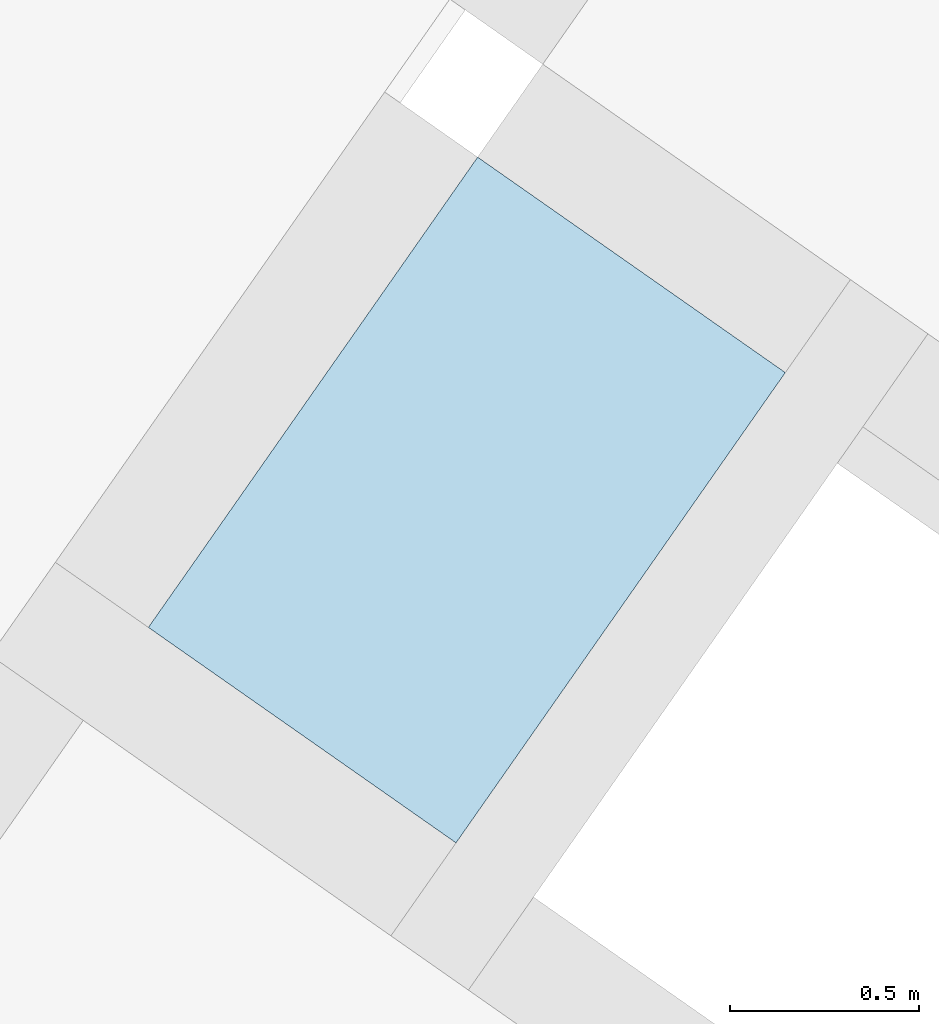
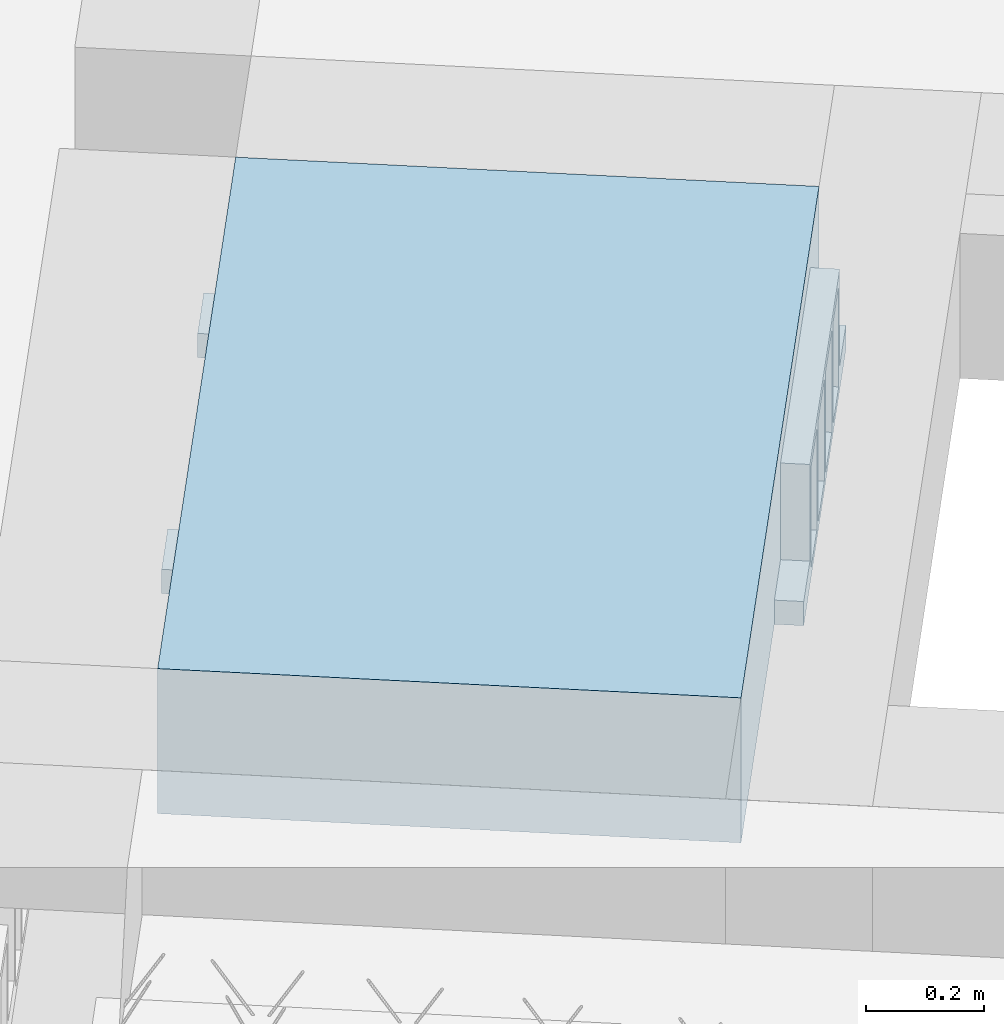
# One storey, part 31 of 46: 1 slab.
"""IFC2X3 building model written with IfcOpenShell, lengths in metres."""

import ifcopenshell
import ifcopenshell.guid

model = None  # the IFC model being written
_history = None  # IfcOwnerHistory: only IFC2X3 demands one
_inside = {}  # id of a spatial element -> (the spatial element, [elements in it])
_under = {}  # id of a project, library or spatial element -> (it, [spatial elements below it])
_declared = {}  # id of a project -> (the project, [libraries it declares])
_typed = {}  # id of a type object -> (the type object, [elements of that type])
_made_of = {}  # id of a material, layer set ... -> (it, [elements and type objects made of it])


def new_model(schema):
    """Start an empty IFC model of exactly this schema.

    Asked for "IFC4X3", IfcOpenShell would pick the latest addendum, in which some entities
    have other attributes; the version numbers below select the first issue.
    IFC2X3 requires an IfcOwnerHistory on every rooted entity: one is made here for all.
    """
    global model, _history
    if schema == "IFC4X3":
        model = ifcopenshell.file(schema_version=(4, 3, 0, 0))
    else:
        model = ifcopenshell.file(schema=schema)
    _inside.clear()
    _under.clear()
    _declared.clear()
    _typed.clear()
    _made_of.clear()
    _history = None
    if model.schema == "IFC2X3":
        org = make("IfcOrganization", Name="unknown")
        user = make(
            "IfcPersonAndOrganization",
            ThePerson=make("IfcPerson", FamilyName="unknown"),
            TheOrganization=org,
        )
        app = make(
            "IfcApplication",
            ApplicationDeveloper=org,
            Version="unknown",
            ApplicationFullName="unknown",
            ApplicationIdentifier="unknown",
        )
        _history = make(
            "IfcOwnerHistory",
            OwningUser=user,
            OwningApplication=app,
            ChangeAction="ADDED",
            CreationDate=0,
        )
    return model


def make(cls, **values):
    """One entity of the class cls with the attributes given. An attribute that is None is left unset."""
    return model.create_entity(
        cls, **{name: value for name, value in values.items() if value is not None}
    )


def entity(cls, *values):
    """Any entity or typed value of the class cls, its attributes in the order of the schema. None: left unset."""
    e = model.create_entity(cls)
    for i, value in enumerate(values):
        if value is not None:
            e[i] = value
    return e


def rooted(cls, **values):
    """An entity with a GlobalId (a new one), such as an element, a storey or a relation."""
    return make(cls, GlobalId=ifcopenshell.guid.new(), OwnerHistory=_history, **values)


def si_unit(unit_type, name, prefix=None):
    """IfcSIUnit, for example si_unit("LENGTHUNIT", "METRE", prefix="MILLI")."""
    return make("IfcSIUnit", UnitType=unit_type, Prefix=prefix, Name=name)


def converted_unit(unit_type, name, factor, base, dimensions=None, offset=None):
    """IfcConversionBasedUnit, such as the inch: factor (a typed value) times the base unit."""
    return make(
        "IfcConversionBasedUnit"
        if offset is None
        else "IfcConversionBasedUnitWithOffset",
        ConversionOffset=offset,
        Dimensions=None
        if dimensions is None
        else entity("IfcDimensionalExponents", *dimensions),
        UnitType=unit_type,
        Name=name,
        ConversionFactor=make(
            "IfcMeasureWithUnit", ValueComponent=factor, UnitComponent=base
        ),
    )


def derived_unit(unit_type, elements):
    """IfcDerivedUnit: a product of units, each with its exponent."""
    return make(
        "IfcDerivedUnit",
        Elements=[
            make("IfcDerivedUnitElement", Unit=unit, Exponent=power)
            for unit, power in elements
        ],
        UnitType=unit_type,
    )


def assignment(units):
    """IfcUnitAssignment: the units of a project."""
    return None if units is None else make("IfcUnitAssignment", Units=units)


def point(xyz):
    """IfcCartesianPoint."""
    return None if xyz is None else make("IfcCartesianPoint", Coordinates=xyz)


def direction(xyz):
    """IfcDirection."""
    return None if xyz is None else make("IfcDirection", DirectionRatios=xyz)


def frame(location, z_axis=None, x_axis=None):
    """IfcAxis2Placement3D, a coordinate frame: its origin and axes. An axis left out is left unset."""
    return make(
        "IfcAxis2Placement3D",
        Location=point(location),
        Axis=direction(z_axis),
        RefDirection=direction(x_axis),
    )


def frame_2d(location, x_axis=None):
    """IfcAxis2Placement2D, a coordinate frame in the plane: its origin and x axis."""
    return make(
        "IfcAxis2Placement2D", Location=point(location), RefDirection=direction(x_axis)
    )


def origin():
    """The frame at (0, 0, 0) with its axes left unset."""
    return frame((0.0, 0.0, 0.0))


def origin_2d_with_axis():
    """The frame at (0, 0) in the plane with the x axis (1, 0) written out."""
    return frame_2d((0.0, 0.0), x_axis=(1.0, 0.0))


def place(relative_to, where):
    """IfcLocalPlacement: puts the frame where relative to a parent placement (None: the world)."""
    return make(
        "IfcLocalPlacement", PlacementRelTo=relative_to, RelativePlacement=where
    )


def context(
    kind, dimensions, precision=None, world=None, true_north=None, identifier=None
):
    """IfcGeometricRepresentationContext, for example the 3D "Model" context."""
    return make(
        "IfcGeometricRepresentationContext",
        ContextIdentifier=identifier,
        ContextType=kind,
        CoordinateSpaceDimension=dimensions,
        Precision=precision,
        WorldCoordinateSystem=world,
        TrueNorth=true_north,
    )


def subcontext(parent, identifier, kind, view, scale=None):
    """IfcGeometricRepresentationSubContext, for example "Body" below "Model"."""
    return make(
        "IfcGeometricRepresentationSubContext",
        ContextIdentifier=identifier,
        ContextType=kind,
        ParentContext=parent,
        TargetScale=scale,
        TargetView=view,
    )


def project(units=None, contexts=None):
    """IfcProject with its units and contexts."""
    return rooted(
        "IfcProject",
        Name="project",
        RepresentationContexts=contexts,
        UnitsInContext=assignment(units),
    )


def spatial(cls, under=None, at=None, **own):
    """A site, building, storey or space (cls), placed at a placement, below another one or the project."""
    s = rooted(cls, ObjectPlacement=at, **own)
    if under is not None:
        _under.setdefault(under.id(), (under, []))[1].append(s)
    return s


def polyline(points):
    """IfcPolyline through the points."""
    return make("IfcPolyline", Points=[point(p) for p in points])


def profile(cls, at=None, kind="AREA", **sizes):
    """A parametric profile (cls). Its sizes go by their IFC names, for example OverallWidth=200.0."""
    return make(cls, ProfileType=kind, Position=at, **sizes)


def rectangle(**sizes):
    """IfcRectangleProfileDef."""
    return profile("IfcRectangleProfileDef", **sizes)


def circle(**sizes):
    """IfcCircleProfileDef."""
    return profile("IfcCircleProfileDef", **sizes)


def outline(outer, holes=None, kind="AREA"):
    """IfcArbitraryClosedProfileDef: a profile drawn as a closed curve; with holes, ...WithVoids."""
    if holes is None:
        return make("IfcArbitraryClosedProfileDef", ProfileType=kind, OuterCurve=outer)
    return make(
        "IfcArbitraryProfileDefWithVoids",
        ProfileType=kind,
        OuterCurve=outer,
        InnerCurves=holes,
    )


def extrude(swept, where, along, depth):
    """IfcExtrudedAreaSolid: the profile swept, set in the frame where, extruded along a direction by depth."""
    return make(
        "IfcExtrudedAreaSolid",
        SweptArea=swept,
        Position=where,
        ExtrudedDirection=direction(along),
        Depth=depth,
    )


def shape(context_of_items, identifier, shape_type, items):
    """IfcShapeRepresentation: the items that make up one representation, for example the "Body"."""
    return make(
        "IfcShapeRepresentation",
        ContextOfItems=context_of_items,
        RepresentationIdentifier=identifier,
        RepresentationType=shape_type,
        Items=items,
    )


def made_of(thing, what):
    """Note that an element or type object is made of a material, layer set ...; save() writes the relation."""
    if what is not None:
        _made_of.setdefault(what.id(), (what, []))[1].append(thing)
    return thing


def type_object(cls, material=None, **own):
    """A type object (cls), such as IfcWallType, which elements share."""
    return made_of(rooted(cls, **own), material)


def element(
    cls,
    number,
    at=None,
    inside=None,
    cuts=None,
    type_object=None,
    material=None,
    context=None,
    identifier="Body",
    shape_type=None,
    held_by="IfcProductDefinitionShape",
    body=None,
    shapes=None,
    **own,
):
    """One element of the class cls, such as IfcWall. Its Tag is "e" and its number.

    at: its placement. inside: the storey or other place that contains it. cuts: it is an
    opening in that element (IfcRelVoidsElement). A single representation is given by context,
    identifier, shape_type and body (its items); several are given by shapes. held_by: the class
    of the entity that holds the representations. save() writes the other relations.
    """
    e = rooted(cls, Tag="e%d" % number, ObjectPlacement=at, **own)
    if body is not None:
        shapes = [shape(context, identifier, shape_type, body)]
    if shapes is not None:
        e.Representation = make(held_by, Representations=shapes)
    if inside is not None:
        _inside.setdefault(inside.id(), (inside, []))[1].append(e)
    if cuts is not None:
        rooted(
            "IfcRelVoidsElement", RelatingBuildingElement=cuts, RelatedOpeningElement=e
        )
    if type_object is not None:
        _typed.setdefault(type_object.id(), (type_object, []))[1].append(e)
    return made_of(e, material)


def aggregate(whole, parts):
    """IfcRelAggregates: a whole, such as a stair, and the parts it consists of."""
    return rooted("IfcRelAggregates", RelatingObject=whole, RelatedObjects=parts)


def save(model, path):
    """Write the relations noted so far, then the file.

    IfcRelAggregates (storeys below a building ...), IfcRelContainedInSpatialStructure (elements
    in a storey), IfcRelDefinesByType, IfcRelAssociatesMaterial and IfcRelDeclares: one each for
    every whole, place, type object, material and project.
    """
    for whole, parts in _under.values():
        aggregate(whole, parts)
    for where, things in _inside.values():
        rooted(
            "IfcRelContainedInSpatialStructure",
            RelatedElements=things,
            RelatingStructure=where,
        )
    for kind, things in _typed.values():
        rooted("IfcRelDefinesByType", RelatedObjects=things, RelatingType=kind)
    for what, things in _made_of.values():
        rooted("IfcRelAssociatesMaterial", RelatedObjects=things, RelatingMaterial=what)
    for by, libraries in _declared.values():
        rooted("IfcRelDeclares", RelatingContext=by, RelatedDefinitions=libraries)
    model.write(path)


model = new_model("IFC2X3")

# Units and contexts
model_context = context("Model", 3, precision=1e-05, world=origin(), true_north=direction((6.123031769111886e-17, 1.0)))
body_context = subcontext(model_context, "Body", "Model", "MODEL_VIEW")
ifc_project = project(units=[si_unit("LENGTHUNIT", "METRE"), si_unit("AREAUNIT", "SQUARE_METRE"), si_unit("VOLUMEUNIT", "CUBIC_METRE"), converted_unit("PLANEANGLEUNIT", "DEGREE", entity("IfcPlaneAngleMeasure", 0.017453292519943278), si_unit("PLANEANGLEUNIT", "RADIAN"), dimensions=[0, 0, 0, 0, 0, 0, 0]), si_unit("MASSUNIT", "GRAM", prefix="KILO"), derived_unit("MASSDENSITYUNIT", [(si_unit("MASSUNIT", "GRAM", prefix="KILO"), 1), (si_unit("LENGTHUNIT", "METRE"), -3)]), derived_unit("IONCONCENTRATIONUNIT", [(si_unit("MASSUNIT", "GRAM", prefix="KILO"), 1), (si_unit("LENGTHUNIT", "METRE"), -3)]), derived_unit("MOMENTOFINERTIAUNIT", [(si_unit("LENGTHUNIT", "METRE"), 4)]), si_unit("TIMEUNIT", "SECOND"), si_unit("FREQUENCYUNIT", "HERTZ"), si_unit("THERMODYNAMICTEMPERATUREUNIT", "DEGREE_CELSIUS"), derived_unit("THERMALTRANSMITTANCEUNIT", [(si_unit("MASSUNIT", "GRAM", prefix="KILO"), 1), (si_unit("THERMODYNAMICTEMPERATUREUNIT", "KELVIN"), -1), (si_unit("TIMEUNIT", "SECOND"), -3)]), derived_unit("THERMALCONDUCTANCEUNIT", [(si_unit("MASSUNIT", "GRAM", prefix="KILO"), 1), (si_unit("THERMODYNAMICTEMPERATUREUNIT", "KELVIN"), -1), (si_unit("TIMEUNIT", "SECOND"), -3), (si_unit("LENGTHUNIT", "METRE"), 1)]), derived_unit("VOLUMETRICFLOWRATEUNIT", [(si_unit("LENGTHUNIT", "METRE", prefix="DECI"), 3), (si_unit("TIMEUNIT", "SECOND"), -1)]), derived_unit("MASSFLOWRATEUNIT", [(si_unit("MASSUNIT", "GRAM", prefix="KILO"), 1), (si_unit("TIMEUNIT", "SECOND"), -1)]), derived_unit("ROTATIONALFREQUENCYUNIT", [(si_unit("TIMEUNIT", "SECOND"), -1)]), si_unit("ELECTRICCURRENTUNIT", "AMPERE"), si_unit("ELECTRICVOLTAGEUNIT", "VOLT"), si_unit("POWERUNIT", "WATT"), si_unit("FORCEUNIT", "NEWTON", prefix="KILO"), si_unit("ILLUMINANCEUNIT", "LUX"), si_unit("LUMINOUSFLUXUNIT", "LUMEN"), si_unit("LUMINOUSINTENSITYUNIT", "CANDELA"), si_unit("ENERGYUNIT", "JOULE"), derived_unit("USERDEFINED", [(si_unit("MASSUNIT", "GRAM", prefix="KILO"), -1), (si_unit("LENGTHUNIT", "METRE"), -2), (si_unit("TIMEUNIT", "SECOND"), 3), (si_unit("LUMINOUSFLUXUNIT", "LUMEN"), 1)]), derived_unit("USERDEFINED", [(si_unit("MASSUNIT", "GRAM", prefix="KILO"), 1), (si_unit("TIMEUNIT", "SECOND"), -3), (si_unit("LENGTHUNIT", "METRE"), 3), (si_unit("ELECTRICCURRENTUNIT", "AMPERE"), -2)]), derived_unit("SOUNDPOWERUNIT", [(si_unit("MASSUNIT", "GRAM", prefix="KILO"), 1), (si_unit("TIMEUNIT", "SECOND"), -3), (si_unit("LENGTHUNIT", "METRE"), 2)]), derived_unit("SOUNDPRESSUREUNIT", [(si_unit("MASSUNIT", "GRAM", prefix="KILO"), 1), (si_unit("LENGTHUNIT", "METRE"), -1), (si_unit("TIMEUNIT", "SECOND"), -2)]), derived_unit("LINEARVELOCITYUNIT", [(si_unit("LENGTHUNIT", "METRE"), 1), (si_unit("TIMEUNIT", "SECOND"), -1)]), si_unit("PRESSUREUNIT", "PASCAL"), derived_unit("USERDEFINED", [(si_unit("MASSUNIT", "GRAM", prefix="KILO"), 1), (si_unit("LENGTHUNIT", "METRE"), -2), (si_unit("TIMEUNIT", "SECOND"), -2)]), derived_unit("LINEARFORCEUNIT", [(si_unit("MASSUNIT", "GRAM", prefix="KILO"), 1), (si_unit("TIMEUNIT", "SECOND"), -2)]), derived_unit("PLANARFORCEUNIT", [(si_unit("MASSUNIT", "GRAM", prefix="KILO"), 1), (si_unit("LENGTHUNIT", "METRE"), -1), (si_unit("TIMEUNIT", "SECOND"), -2)]), derived_unit("SPECIFICHEATCAPACITYUNIT", [(si_unit("THERMODYNAMICTEMPERATUREUNIT", "KELVIN"), -1), (si_unit("LENGTHUNIT", "METRE"), 2), (si_unit("TIMEUNIT", "SECOND"), -2)]), derived_unit("HEATFLUXDENSITYUNIT", [(si_unit("MASSUNIT", "GRAM", prefix="KILO"), 1), (si_unit("TIMEUNIT", "SECOND"), -3)]), derived_unit("HEATINGVALUEUNIT", [(si_unit("LENGTHUNIT", "METRE"), 2), (si_unit("TIMEUNIT", "SECOND"), -2)]), derived_unit("VAPORPERMEABILITYUNIT", [(si_unit("LENGTHUNIT", "METRE"), -1), (si_unit("TIMEUNIT", "SECOND"), 1)]), derived_unit("DYNAMICVISCOSITYUNIT", [(si_unit("MASSUNIT", "GRAM", prefix="KILO"), 1), (si_unit("TIMEUNIT", "SECOND"), -1), (si_unit("LENGTHUNIT", "METRE"), -1)]), derived_unit("THERMALEXPANSIONCOEFFICIENTUNIT", [(si_unit("THERMODYNAMICTEMPERATUREUNIT", "KELVIN"), -1)]), derived_unit("MODULUSOFELASTICITYUNIT", [(si_unit("MASSUNIT", "GRAM", prefix="KILO"), 1), (si_unit("LENGTHUNIT", "METRE"), -1), (si_unit("TIMEUNIT", "SECOND"), -2)]), derived_unit("ISOTHERMALMOISTURECAPACITYUNIT", [(si_unit("MASSUNIT", "GRAM", prefix="KILO"), -1), (si_unit("LENGTHUNIT", "METRE"), 3)]), derived_unit("MOISTUREDIFFUSIVITYUNIT", [(si_unit("TIMEUNIT", "SECOND"), -1), (si_unit("LENGTHUNIT", "METRE"), 2)]), derived_unit("MASSPERLENGTHUNIT", [(si_unit("MASSUNIT", "GRAM", prefix="KILO"), 1), (si_unit("LENGTHUNIT", "METRE"), -1)]), derived_unit("THERMALRESISTANCEUNIT", [(si_unit("MASSUNIT", "GRAM", prefix="KILO"), -1), (si_unit("TIMEUNIT", "SECOND"), 3), (si_unit("THERMODYNAMICTEMPERATUREUNIT", "KELVIN"), 1)]), derived_unit("ACCELERATIONUNIT", [(si_unit("LENGTHUNIT", "METRE"), 1), (si_unit("TIMEUNIT", "SECOND"), -2)]), derived_unit("ANGULARVELOCITYUNIT", [(si_unit("TIMEUNIT", "SECOND"), -1), (si_unit("PLANEANGLEUNIT", "RADIAN"), 1)]), derived_unit("LINEARSTIFFNESSUNIT", [(si_unit("MASSUNIT", "GRAM", prefix="KILO"), 1), (si_unit("TIMEUNIT", "SECOND"), -2)]), derived_unit("WARPINGCONSTANTUNIT", [(si_unit("LENGTHUNIT", "METRE"), 6)]), derived_unit("LINEARMOMENTUNIT", [(si_unit("MASSUNIT", "GRAM", prefix="KILO"), 1), (si_unit("LENGTHUNIT", "METRE"), 1), (si_unit("TIMEUNIT", "SECOND"), -2)]), derived_unit("TORQUEUNIT", [(si_unit("MASSUNIT", "GRAM", prefix="KILO"), 1), (si_unit("LENGTHUNIT", "METRE"), 2), (si_unit("TIMEUNIT", "SECOND"), -2)])], contexts=[model_context])

# Site, building, storey
site_placement = place(None, origin())
site = spatial("IfcSite", under=ifc_project, at=site_placement, Name="Default", CompositionType="ELEMENT")
building_placement = place(site_placement, origin())
building = spatial("IfcBuilding", under=site, at=building_placement, CompositionType="ELEMENT")
storey_placement = place(building_placement, frame((0.0, 0.0, 99.52000000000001)))
storey = spatial("IfcBuildingStorey", under=building, at=storey_placement, Name="F1", CompositionType="ELEMENT", Elevation=99.52000000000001)

# Slab
slab_type = type_object("IfcSlabType", Name="Paño 8 (30 cm)", PredefinedType="FLOOR")
slab_placement = place(storey_placement, origin())
element("IfcSlab", 1, at=slab_placement, inside=storey, type_object=slab_type, Name="Paño 8 (30 cm)", ObjectType="Covicsa Armada(25+5)", PredefinedType="FLOOR", context=body_context, shape_type="SweptSolid", body=[
    extrude(rectangle(XDim=1.0927344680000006, YDim=0.11999999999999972, at=origin_2d_with_axis()), frame((5.809233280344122, 6.370298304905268, -0.3000000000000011), z_axis=(0.0, 0.0, 1.0), x_axis=(0.8191520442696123, -0.5735764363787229, 0.0)), (0.0, 0.0, 1.0), 0.04999999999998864),
    extrude(rectangle(XDim=1.0927344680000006, YDim=0.11999999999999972, at=origin_2d_with_axis()), frame((6.210736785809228, 6.943704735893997, -0.3000000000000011), z_axis=(0.0, 0.0, 1.0), x_axis=(0.8191520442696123, -0.5735764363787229, 0.0)), (0.0, 0.0, 1.0), 0.04999999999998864),
    extrude(rectangle(XDim=1.517468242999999, YDim=0.9927344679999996, at=frame_2d((-1.1657341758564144e-15, -1.6653345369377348e-16), x_axis=(1.0, 0.0))), frame((5.83804620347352, 6.411447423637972, -0.3000000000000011), z_axis=(0.0, 0.0, 1.0), x_axis=(0.5735764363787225, 0.8191520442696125, 0.0)), (0.0, 0.0, 1.0), 0.3000000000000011),
    extrude(circle(Radius=0.0025, at=origin_2d_with_axis()), frame((5.360686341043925, 6.640426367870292, -0.2750000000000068), z_axis=(0.8191520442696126, -0.5735764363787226, 0.0), x_axis=(-0.5735764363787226, -0.8191520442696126, 0.0)), (0.0, 0.0, 1.0), 1.044734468),
    extrude(circle(Radius=0.0025, at=origin_2d_with_axis()), frame((6.157372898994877, 6.126528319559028, -0.050000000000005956), z_axis=(-0.8191520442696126, 0.5735764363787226, 0.0), x_axis=(-0.5735764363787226, -0.8191520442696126, 0.0)), (0.0, 0.0, 1.0), 0.8499999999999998),
    extrude(circle(Radius=0.0025, at=origin_2d_with_axis()), frame((6.198160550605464, 6.054020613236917, -0.2750000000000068), z_axis=(-0.3145304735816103, 0.389334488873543, 0.8657304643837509), x_axis=(-0.7778747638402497, -0.6284193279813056, 0.0)), (0.0, 0.0, 1.0), 0.2598961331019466),
    extrude(circle(Radius=0.0025, at=origin_2d_with_axis()), frame((5.993372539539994, 6.197414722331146, -0.2750000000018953), z_axis=(0.47343050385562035, -0.1624017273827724, 0.8657304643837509), x_axis=(-0.3244721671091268, -0.9458952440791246, 0.0)), (0.0, 0.0, 1.0), 0.25989613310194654),
    extrude(circle(Radius=0.0025, at=origin_2d_with_axis()), frame((5.993372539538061, 6.1974147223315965, -0.2750000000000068), z_axis=(-0.3145304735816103, 0.389334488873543, 0.8657304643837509), x_axis=(-0.7778747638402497, -0.6284193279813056, 0.0)), (0.0, 0.0, 1.0), 0.2598961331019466),
    extrude(circle(Radius=0.0025, at=origin_2d_with_axis()), frame((5.788584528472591, 6.340808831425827, -0.2750000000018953), z_axis=(0.47343050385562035, -0.1624017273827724, 0.8657304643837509), x_axis=(-0.3244721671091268, -0.9458952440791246, 0.0)), (0.0, 0.0, 1.0), 0.25989613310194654),
    extrude(circle(Radius=0.0025, at=origin_2d_with_axis()), frame((5.788584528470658, 6.340808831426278, -0.2750000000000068), z_axis=(-0.3145304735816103, 0.389334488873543, 0.8657304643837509), x_axis=(-0.7778747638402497, -0.6284193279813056, 0.0)), (0.0, 0.0, 1.0), 0.2598961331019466),
    extrude(circle(Radius=0.0025, at=origin_2d_with_axis()), frame((5.583796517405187, 6.484202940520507, -0.2750000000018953), z_axis=(0.47343050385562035, -0.1624017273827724, 0.8657304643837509), x_axis=(-0.3244721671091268, -0.9458952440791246, 0.0)), (0.0, 0.0, 1.0), 0.25989613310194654),
    extrude(circle(Radius=0.0025, at=origin_2d_with_axis()), frame((5.583796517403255, 6.484202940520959, -0.2750000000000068), z_axis=(-0.3145304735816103, 0.389334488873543, 0.8657304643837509), x_axis=(-0.7778747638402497, -0.6284193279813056, 0.0)), (0.0, 0.0, 1.0), 0.2598961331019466),
    extrude(circle(Radius=0.0025, at=origin_2d_with_axis()), frame((5.379008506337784, 6.627597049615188, -0.2750000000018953), z_axis=(0.47343050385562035, -0.1624017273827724, 0.8657304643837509), x_axis=(-0.3244721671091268, -0.9458952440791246, 0.0)), (0.0, 0.0, 1.0), 0.25989613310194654),
    extrude(circle(Radius=0.0025, at=origin_2d_with_axis()), frame((5.401983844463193, 6.699405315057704, -0.2750000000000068), z_axis=(0.8191520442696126, -0.5735764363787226, 0.0), x_axis=(-0.5735764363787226, -0.8191520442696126, 0.0)), (0.0, 0.0, 1.0), 1.044734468),
    extrude(circle(Radius=0.0025, at=origin_2d_with_axis()), frame((6.239458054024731, 6.112999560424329, -0.2750000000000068), z_axis=(-0.47343050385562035, 0.1624017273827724, 0.8657304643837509), x_axis=(-0.3244721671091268, -0.9458952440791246, 0.0)), (0.0, 0.0, 1.0), 0.25989613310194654),
    extrude(circle(Radius=0.0025, at=origin_2d_with_axis()), frame((6.034670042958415, 6.256393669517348, -0.2750000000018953), z_axis=(0.3145304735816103, -0.389334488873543, 0.8657304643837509), x_axis=(-0.7778747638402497, -0.6284193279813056, 0.0)), (0.0, 0.0, 1.0), 0.2598961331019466),
    extrude(circle(Radius=0.0025, at=origin_2d_with_axis()), frame((6.034670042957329, 6.256393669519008, -0.2750000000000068), z_axis=(-0.47343050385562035, 0.1624017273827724, 0.8657304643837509), x_axis=(-0.3244721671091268, -0.9458952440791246, 0.0)), (0.0, 0.0, 1.0), 0.25989613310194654),
    extrude(circle(Radius=0.0025, at=origin_2d_with_axis()), frame((5.829882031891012, 6.399787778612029, -0.2750000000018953), z_axis=(0.3145304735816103, -0.389334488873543, 0.8657304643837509), x_axis=(-0.7778747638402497, -0.6284193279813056, 0.0)), (0.0, 0.0, 1.0), 0.2598961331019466),
    extrude(circle(Radius=0.0025, at=origin_2d_with_axis()), frame((5.829882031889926, 6.39978777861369, -0.2750000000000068), z_axis=(-0.47343050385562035, 0.1624017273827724, 0.8657304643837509), x_axis=(-0.3244721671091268, -0.9458952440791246, 0.0)), (0.0, 0.0, 1.0), 0.25989613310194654),
    extrude(circle(Radius=0.0025, at=origin_2d_with_axis()), frame((5.6250940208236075, 6.543181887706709, -0.2750000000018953), z_axis=(0.3145304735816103, -0.389334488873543, 0.8657304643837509), x_axis=(-0.7778747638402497, -0.6284193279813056, 0.0)), (0.0, 0.0, 1.0), 0.2598961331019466),
    extrude(circle(Radius=0.0025, at=origin_2d_with_axis()), frame((5.625094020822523, 6.5431818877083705, -0.2750000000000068), z_axis=(-0.47343050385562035, 0.1624017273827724, 0.8657304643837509), x_axis=(-0.3244721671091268, -0.9458952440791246, 0.0)), (0.0, 0.0, 1.0), 0.25989613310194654),
    extrude(circle(Radius=0.0025, at=origin_2d_with_axis()), frame((5.420306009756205, 6.68657599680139, -0.2750000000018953), z_axis=(0.3145304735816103, -0.389334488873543, 0.8657304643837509), x_axis=(-0.7778747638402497, -0.6284193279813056, 0.0)), (0.0, 0.0, 1.0), 0.2598961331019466),
    extrude(circle(Radius=0.0025, at=origin_2d_with_axis()), frame((5.762189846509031, 7.213832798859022, -0.2750000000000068), z_axis=(0.8191520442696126, -0.5735764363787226, 0.0), x_axis=(-0.5735764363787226, -0.8191520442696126, 0.0)), (0.0, 0.0, 1.0), 1.044734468),
    extrude(circle(Radius=0.0025, at=origin_2d_with_axis()), frame((6.558876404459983, 6.699934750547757, -0.050000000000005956), z_axis=(-0.8191520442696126, 0.5735764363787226, 0.0), x_axis=(-0.5735764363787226, -0.8191520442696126, 0.0)), (0.0, 0.0, 1.0), 0.8499999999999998),
    extrude(circle(Radius=0.0025, at=origin_2d_with_axis()), frame((6.59966405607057, 6.627427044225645, -0.2750000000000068), z_axis=(-0.3145304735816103, 0.389334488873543, 0.8657304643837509), x_axis=(-0.7778747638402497, -0.6284193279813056, 0.0)), (0.0, 0.0, 1.0), 0.2598961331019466),
    extrude(circle(Radius=0.0025, at=origin_2d_with_axis()), frame((6.3948760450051, 6.770821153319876, -0.2750000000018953), z_axis=(0.47343050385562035, -0.1624017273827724, 0.8657304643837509), x_axis=(-0.3244721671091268, -0.9458952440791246, 0.0)), (0.0, 0.0, 1.0), 0.25989613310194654),
    extrude(circle(Radius=0.0025, at=origin_2d_with_axis()), frame((6.3948760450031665, 6.770821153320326, -0.2750000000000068), z_axis=(-0.3145304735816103, 0.389334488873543, 0.8657304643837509), x_axis=(-0.7778747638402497, -0.6284193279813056, 0.0)), (0.0, 0.0, 1.0), 0.2598961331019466),
    extrude(circle(Radius=0.0025, at=origin_2d_with_axis()), frame((6.1900880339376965, 6.914215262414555, -0.2750000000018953), z_axis=(0.47343050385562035, -0.1624017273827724, 0.8657304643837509), x_axis=(-0.3244721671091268, -0.9458952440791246, 0.0)), (0.0, 0.0, 1.0), 0.25989613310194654),
    extrude(circle(Radius=0.0025, at=origin_2d_with_axis()), frame((6.190088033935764, 6.9142152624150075, -0.2750000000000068), z_axis=(-0.3145304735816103, 0.389334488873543, 0.8657304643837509), x_axis=(-0.7778747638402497, -0.6284193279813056, 0.0)), (0.0, 0.0, 1.0), 0.2598961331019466),
    extrude(circle(Radius=0.0025, at=origin_2d_with_axis()), frame((5.985300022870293, 7.057609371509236, -0.2750000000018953), z_axis=(0.47343050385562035, -0.1624017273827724, 0.8657304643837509), x_axis=(-0.3244721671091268, -0.9458952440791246, 0.0)), (0.0, 0.0, 1.0), 0.25989613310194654),
    extrude(circle(Radius=0.0025, at=origin_2d_with_axis()), frame((5.985300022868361, 7.057609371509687, -0.2750000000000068), z_axis=(-0.3145304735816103, 0.389334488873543, 0.8657304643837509), x_axis=(-0.7778747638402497, -0.6284193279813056, 0.0)), (0.0, 0.0, 1.0), 0.2598961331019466),
    extrude(circle(Radius=0.0025, at=origin_2d_with_axis()), frame((5.78051201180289, 7.201003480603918, -0.2750000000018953), z_axis=(0.47343050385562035, -0.1624017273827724, 0.8657304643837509), x_axis=(-0.3244721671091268, -0.9458952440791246, 0.0)), (0.0, 0.0, 1.0), 0.25989613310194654),
    extrude(circle(Radius=0.0025, at=origin_2d_with_axis()), frame((5.803487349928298, 7.272811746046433, -0.2750000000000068), z_axis=(0.8191520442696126, -0.5735764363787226, 0.0), x_axis=(-0.5735764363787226, -0.8191520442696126, 0.0)), (0.0, 0.0, 1.0), 1.044734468),
    extrude(circle(Radius=0.0025, at=origin_2d_with_axis()), frame((6.6409615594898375, 6.686405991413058, -0.2750000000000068), z_axis=(-0.47343050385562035, 0.1624017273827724, 0.8657304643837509), x_axis=(-0.3244721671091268, -0.9458952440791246, 0.0)), (0.0, 0.0, 1.0), 0.25989613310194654),
    extrude(circle(Radius=0.0025, at=origin_2d_with_axis()), frame((6.436173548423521, 6.829800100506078, -0.2750000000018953), z_axis=(0.3145304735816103, -0.389334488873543, 0.8657304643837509), x_axis=(-0.7778747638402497, -0.6284193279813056, 0.0)), (0.0, 0.0, 1.0), 0.2598961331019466),
    extrude(circle(Radius=0.0025, at=origin_2d_with_axis()), frame((6.436173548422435, 6.829800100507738, -0.2750000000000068), z_axis=(-0.47343050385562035, 0.1624017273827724, 0.8657304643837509), x_axis=(-0.3244721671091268, -0.9458952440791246, 0.0)), (0.0, 0.0, 1.0), 0.25989613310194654),
    extrude(circle(Radius=0.0025, at=origin_2d_with_axis()), frame((6.231385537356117, 6.973194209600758, -0.2750000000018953), z_axis=(0.3145304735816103, -0.389334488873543, 0.8657304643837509), x_axis=(-0.7778747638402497, -0.6284193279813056, 0.0)), (0.0, 0.0, 1.0), 0.2598961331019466),
    extrude(circle(Radius=0.0025, at=origin_2d_with_axis()), frame((6.231385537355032, 6.973194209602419, -0.2750000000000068), z_axis=(-0.47343050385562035, 0.1624017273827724, 0.8657304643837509), x_axis=(-0.3244721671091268, -0.9458952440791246, 0.0)), (0.0, 0.0, 1.0), 0.25989613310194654),
    extrude(circle(Radius=0.0025, at=origin_2d_with_axis()), frame((6.026597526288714, 7.116588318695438, -0.2750000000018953), z_axis=(0.3145304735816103, -0.389334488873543, 0.8657304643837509), x_axis=(-0.7778747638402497, -0.6284193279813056, 0.0)), (0.0, 0.0, 1.0), 0.2598961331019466),
    extrude(circle(Radius=0.0025, at=origin_2d_with_axis()), frame((6.026597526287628, 7.1165883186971, -0.2750000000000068), z_axis=(-0.47343050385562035, 0.1624017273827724, 0.8657304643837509), x_axis=(-0.3244721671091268, -0.9458952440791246, 0.0)), (0.0, 0.0, 1.0), 0.25989613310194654),
    extrude(circle(Radius=0.0025, at=origin_2d_with_axis()), frame((5.821809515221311, 7.25998242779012, -0.2750000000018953), z_axis=(0.3145304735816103, -0.389334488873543, 0.8657304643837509), x_axis=(-0.7778747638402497, -0.6284193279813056, 0.0)), (0.0, 0.0, 1.0), 0.2598961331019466),
    extrude(outline(polyline([(-0.28999999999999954, -0.12500000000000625), (0.28999999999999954, -0.12500000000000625), (0.28999999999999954, 0.12500000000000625), (-0.28999999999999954, 0.12500000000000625), (-0.28999999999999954, -0.12500000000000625)]), holes=[polyline([(0.26999999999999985, -0.10499999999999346), (0.15500000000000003, -0.10499999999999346), (0.15500000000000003, 0.10499999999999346), (0.26999999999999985, 0.10499999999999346), (0.26999999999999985, 0.042499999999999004), (0.26999999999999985, -0.10499999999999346)]), polyline([(0.009999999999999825, -0.10499999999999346), (0.009999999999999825, 0.10499999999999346), (0.1350000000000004, 0.10499999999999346), (0.1350000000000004, -0.10499999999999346), (0.009999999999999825, -0.10499999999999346)]), polyline([(-0.1350000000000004, 0.10499999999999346), (-0.009999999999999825, 0.10499999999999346), (-0.009999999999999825, -0.10499999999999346), (-0.1350000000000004, -0.10499999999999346), (-0.1350000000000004, 0.10499999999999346)]), polyline([(-0.26999999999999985, -0.10499999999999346), (-0.26999999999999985, 0.042499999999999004), (-0.26999999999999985, 0.10499999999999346), (-0.15500000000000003, 0.10499999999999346), (-0.15500000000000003, -0.10499999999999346), (-0.26999999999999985, -0.10499999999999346)])]), frame((5.855633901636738, 5.911147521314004, -0.17499999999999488), z_axis=(0.8191520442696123, -0.5735764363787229, 0.0), x_axis=(-0.5735764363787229, -0.8191520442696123, 0.0)), (0.0, 0.0, 1.0), 0.19499999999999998),
    extrude(outline(polyline([(-0.28999999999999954, -0.12500000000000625), (0.28999999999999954, -0.12500000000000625), (0.28999999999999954, 0.12500000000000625), (-0.28999999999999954, 0.12500000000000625), (-0.28999999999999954, -0.12500000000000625)]), holes=[polyline([(0.26999999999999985, -0.10499999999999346), (0.15500000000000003, -0.10499999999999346), (0.15500000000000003, 0.10499999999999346), (0.26999999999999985, 0.10499999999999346), (0.26999999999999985, 0.042499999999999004), (0.26999999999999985, -0.10499999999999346)]), polyline([(0.009999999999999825, -0.10499999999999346), (0.009999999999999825, 0.10499999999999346), (0.1350000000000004, 0.10499999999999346), (0.1350000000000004, -0.10499999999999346), (0.009999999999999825, -0.10499999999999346)]), polyline([(-0.1350000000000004, 0.10499999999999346), (-0.009999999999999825, 0.10499999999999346), (-0.009999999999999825, -0.10499999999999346), (-0.1350000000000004, -0.10499999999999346), (-0.1350000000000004, 0.10499999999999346)]), polyline([(-0.26999999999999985, -0.10499999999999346), (-0.26999999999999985, 0.042499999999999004), (-0.26999999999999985, 0.10499999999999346), (-0.15500000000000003, 0.10499999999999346), (-0.15500000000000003, -0.10499999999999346), (-0.26999999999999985, -0.10499999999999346)])]), frame((5.691803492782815, 6.025862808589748, -0.17499999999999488), z_axis=(0.8191520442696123, -0.5735764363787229, 0.0), x_axis=(-0.5735764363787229, -0.8191520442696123, 0.0)), (0.0, 0.0, 1.0), 0.19499999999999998),
    extrude(outline(polyline([(-0.28999999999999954, -0.12500000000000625), (0.28999999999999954, -0.12500000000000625), (0.28999999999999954, 0.12500000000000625), (-0.28999999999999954, 0.12500000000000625), (-0.28999999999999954, -0.12500000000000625)]), holes=[polyline([(0.26999999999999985, -0.10499999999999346), (0.15500000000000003, -0.10499999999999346), (0.15500000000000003, 0.10499999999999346), (0.26999999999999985, 0.10499999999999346), (0.26999999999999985, 0.042499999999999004), (0.26999999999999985, -0.10499999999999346)]), polyline([(0.009999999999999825, -0.10499999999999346), (0.009999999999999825, 0.10499999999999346), (0.1350000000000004, 0.10499999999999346), (0.1350000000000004, -0.10499999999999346), (0.009999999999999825, -0.10499999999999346)]), polyline([(-0.1350000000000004, 0.10499999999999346), (-0.009999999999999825, 0.10499999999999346), (-0.009999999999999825, -0.10499999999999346), (-0.1350000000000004, -0.10499999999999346), (-0.1350000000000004, 0.10499999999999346)]), polyline([(-0.26999999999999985, -0.10499999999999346), (-0.26999999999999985, 0.042499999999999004), (-0.26999999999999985, 0.10499999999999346), (-0.15500000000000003, 0.10499999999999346), (-0.15500000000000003, -0.10499999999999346), (-0.26999999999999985, -0.10499999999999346)])]), frame((5.527973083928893, 6.140578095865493, -0.17499999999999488), z_axis=(0.8191520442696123, -0.5735764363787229, 0.0), x_axis=(-0.5735764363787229, -0.8191520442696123, 0.0)), (0.0, 0.0, 1.0), 0.19499999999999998),
    extrude(outline(polyline([(-0.28999999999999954, -0.12500000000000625), (0.28999999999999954, -0.12500000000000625), (0.28999999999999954, 0.12500000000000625), (-0.28999999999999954, 0.12500000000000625), (-0.28999999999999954, -0.12500000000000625)]), holes=[polyline([(0.26999999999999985, -0.10499999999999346), (0.15500000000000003, -0.10499999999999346), (0.15500000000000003, 0.10499999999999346), (0.26999999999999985, 0.10499999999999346), (0.26999999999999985, 0.042499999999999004), (0.26999999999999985, -0.10499999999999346)]), polyline([(0.009999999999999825, -0.10499999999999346), (0.009999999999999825, 0.10499999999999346), (0.1350000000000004, 0.10499999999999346), (0.1350000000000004, -0.10499999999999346), (0.009999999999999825, -0.10499999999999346)]), polyline([(-0.1350000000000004, 0.10499999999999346), (-0.009999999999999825, 0.10499999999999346), (-0.009999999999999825, -0.10499999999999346), (-0.1350000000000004, -0.10499999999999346), (-0.1350000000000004, 0.10499999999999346)]), polyline([(-0.26999999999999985, -0.10499999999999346), (-0.26999999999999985, 0.042499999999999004), (-0.26999999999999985, 0.10499999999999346), (-0.15500000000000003, 0.10499999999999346), (-0.15500000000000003, -0.10499999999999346), (-0.26999999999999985, -0.10499999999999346)])]), frame((5.3641426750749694, 6.255293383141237, -0.17499999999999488), z_axis=(0.8191520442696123, -0.5735764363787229, 0.0), x_axis=(-0.5735764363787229, -0.8191520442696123, 0.0)), (0.0, 0.0, 1.0), 0.19499999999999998),
    extrude(outline(polyline([(-0.28999999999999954, -0.12500000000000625), (0.28999999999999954, -0.12500000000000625), (0.28999999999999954, 0.12500000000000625), (-0.28999999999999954, 0.12500000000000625), (-0.28999999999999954, -0.12500000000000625)]), holes=[polyline([(0.26999999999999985, -0.10499999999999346), (0.15500000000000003, -0.10499999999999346), (0.15500000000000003, 0.10499999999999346), (0.26999999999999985, 0.10499999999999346), (0.26999999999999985, 0.042499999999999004), (0.26999999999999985, -0.10499999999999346)]), polyline([(0.009999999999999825, -0.10499999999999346), (0.009999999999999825, 0.10499999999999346), (0.1350000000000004, 0.10499999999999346), (0.1350000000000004, -0.10499999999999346), (0.009999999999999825, -0.10499999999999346)]), polyline([(-0.1350000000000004, 0.10499999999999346), (-0.009999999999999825, 0.10499999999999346), (-0.009999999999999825, -0.10499999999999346), (-0.1350000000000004, -0.10499999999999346), (-0.1350000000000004, 0.10499999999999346)]), polyline([(-0.26999999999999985, -0.10499999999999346), (-0.26999999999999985, 0.042499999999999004), (-0.26999999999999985, 0.10499999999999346), (-0.15500000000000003, 0.10499999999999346), (-0.15500000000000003, -0.10499999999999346), (-0.26999999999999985, -0.10499999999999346)])]), frame((6.297808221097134, 6.4554655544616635, -0.17499999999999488), z_axis=(0.8191520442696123, -0.5735764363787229, 0.0), x_axis=(-0.5735764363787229, -0.8191520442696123, 0.0)), (0.0, 0.0, 1.0), 0.19499999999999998),
    extrude(outline(polyline([(-0.28999999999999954, -0.12500000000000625), (0.28999999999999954, -0.12500000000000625), (0.28999999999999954, 0.12500000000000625), (-0.28999999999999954, 0.12500000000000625), (-0.28999999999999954, -0.12500000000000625)]), holes=[polyline([(0.26999999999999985, -0.10499999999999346), (0.15500000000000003, -0.10499999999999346), (0.15500000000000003, 0.10499999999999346), (0.26999999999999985, 0.10499999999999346), (0.26999999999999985, 0.042499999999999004), (0.26999999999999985, -0.10499999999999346)]), polyline([(0.009999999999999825, -0.10499999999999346), (0.009999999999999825, 0.10499999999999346), (0.1350000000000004, 0.10499999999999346), (0.1350000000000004, -0.10499999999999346), (0.009999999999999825, -0.10499999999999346)]), polyline([(-0.1350000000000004, 0.10499999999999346), (-0.009999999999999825, 0.10499999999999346), (-0.009999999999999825, -0.10499999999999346), (-0.1350000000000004, -0.10499999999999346), (-0.1350000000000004, 0.10499999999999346)]), polyline([(-0.26999999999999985, -0.10499999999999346), (-0.26999999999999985, 0.042499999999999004), (-0.26999999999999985, 0.10499999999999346), (-0.15500000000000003, 0.10499999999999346), (-0.15500000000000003, -0.10499999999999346), (-0.26999999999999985, -0.10499999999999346)])]), frame((6.133977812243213, 6.570180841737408, -0.17499999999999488), z_axis=(0.8191520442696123, -0.5735764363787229, 0.0), x_axis=(-0.5735764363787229, -0.8191520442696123, 0.0)), (0.0, 0.0, 1.0), 0.19499999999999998),
    extrude(outline(polyline([(-0.28999999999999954, -0.12500000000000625), (0.28999999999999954, -0.12500000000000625), (0.28999999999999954, 0.12500000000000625), (-0.28999999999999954, 0.12500000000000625), (-0.28999999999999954, -0.12500000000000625)]), holes=[polyline([(0.26999999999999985, -0.10499999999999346), (0.15500000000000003, -0.10499999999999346), (0.15500000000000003, 0.10499999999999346), (0.26999999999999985, 0.10499999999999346), (0.26999999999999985, 0.042499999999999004), (0.26999999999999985, -0.10499999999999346)]), polyline([(0.009999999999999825, -0.10499999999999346), (0.009999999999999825, 0.10499999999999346), (0.1350000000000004, 0.10499999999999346), (0.1350000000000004, -0.10499999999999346), (0.009999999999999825, -0.10499999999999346)]), polyline([(-0.1350000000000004, 0.10499999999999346), (-0.009999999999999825, 0.10499999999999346), (-0.009999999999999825, -0.10499999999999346), (-0.1350000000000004, -0.10499999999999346), (-0.1350000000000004, 0.10499999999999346)]), polyline([(-0.26999999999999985, -0.10499999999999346), (-0.26999999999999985, 0.042499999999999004), (-0.26999999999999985, 0.10499999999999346), (-0.15500000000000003, 0.10499999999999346), (-0.15500000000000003, -0.10499999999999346), (-0.26999999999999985, -0.10499999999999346)])]), frame((5.970147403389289, 6.684896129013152, -0.17499999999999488), z_axis=(0.8191520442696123, -0.5735764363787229, 0.0), x_axis=(-0.5735764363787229, -0.8191520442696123, 0.0)), (0.0, 0.0, 1.0), 0.19499999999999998),
    extrude(outline(polyline([(-0.28999999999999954, -0.12500000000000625), (0.28999999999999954, -0.12500000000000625), (0.28999999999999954, 0.12500000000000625), (-0.28999999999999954, 0.12500000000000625), (-0.28999999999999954, -0.12500000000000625)]), holes=[polyline([(0.26999999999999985, -0.10499999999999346), (0.15500000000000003, -0.10499999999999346), (0.15500000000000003, 0.10499999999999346), (0.26999999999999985, 0.10499999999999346), (0.26999999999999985, 0.042499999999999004), (0.26999999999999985, -0.10499999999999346)]), polyline([(0.009999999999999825, -0.10499999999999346), (0.009999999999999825, 0.10499999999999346), (0.1350000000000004, 0.10499999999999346), (0.1350000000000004, -0.10499999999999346), (0.009999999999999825, -0.10499999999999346)]), polyline([(-0.1350000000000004, 0.10499999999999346), (-0.009999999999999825, 0.10499999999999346), (-0.009999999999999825, -0.10499999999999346), (-0.1350000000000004, -0.10499999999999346), (-0.1350000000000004, 0.10499999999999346)]), polyline([(-0.26999999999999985, -0.10499999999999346), (-0.26999999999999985, 0.042499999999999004), (-0.26999999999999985, 0.10499999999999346), (-0.15500000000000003, 0.10499999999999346), (-0.15500000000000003, -0.10499999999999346), (-0.26999999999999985, -0.10499999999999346)])]), frame((5.806316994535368, 6.799611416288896, -0.17499999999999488), z_axis=(0.8191520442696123, -0.5735764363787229, 0.0), x_axis=(-0.5735764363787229, -0.8191520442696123, 0.0)), (0.0, 0.0, 1.0), 0.19499999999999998),
    extrude(outline(polyline([(-0.28999999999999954, -0.12500000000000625), (0.28999999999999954, -0.12500000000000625), (0.28999999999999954, 0.12500000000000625), (-0.28999999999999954, 0.12500000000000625), (-0.28999999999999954, -0.12500000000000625)]), holes=[polyline([(0.26999999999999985, -0.10499999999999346), (0.15500000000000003, -0.10499999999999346), (0.15500000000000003, 0.10499999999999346), (0.26999999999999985, 0.10499999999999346), (0.26999999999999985, 0.042499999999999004), (0.26999999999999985, -0.10499999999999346)]), polyline([(0.009999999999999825, -0.10499999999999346), (0.009999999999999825, 0.10499999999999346), (0.1350000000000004, 0.10499999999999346), (0.1350000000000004, -0.10499999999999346), (0.009999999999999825, -0.10499999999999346)]), polyline([(-0.1350000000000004, 0.10499999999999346), (-0.009999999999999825, 0.10499999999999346), (-0.009999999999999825, -0.10499999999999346), (-0.1350000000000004, -0.10499999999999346), (-0.1350000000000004, 0.10499999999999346)]), polyline([(-0.26999999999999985, -0.10499999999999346), (-0.26999999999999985, 0.042499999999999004), (-0.26999999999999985, 0.10499999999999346), (-0.15500000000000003, 0.10499999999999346), (-0.15500000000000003, -0.10499999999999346), (-0.26999999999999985, -0.10499999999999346)])]), frame((5.642486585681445, 6.914326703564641, -0.17499999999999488), z_axis=(0.8191520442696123, -0.5735764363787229, 0.0), x_axis=(-0.5735764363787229, -0.8191520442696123, 0.0)), (0.0, 0.0, 1.0), 0.19499999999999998),
])

save(model, "model.ifc")
